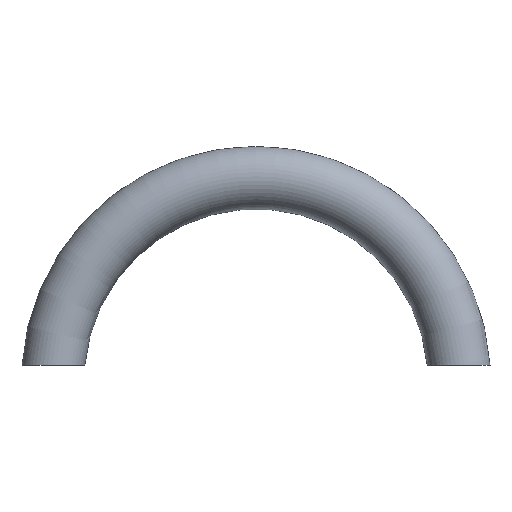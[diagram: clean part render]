
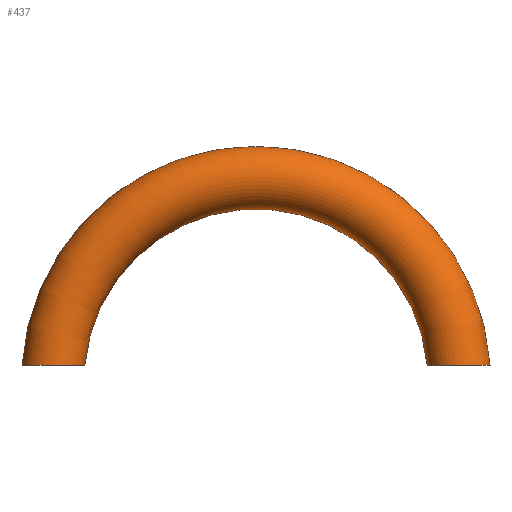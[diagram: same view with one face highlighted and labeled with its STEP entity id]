
A CAD part, top view. The second image highlights one B-rep face of the part: STEP entity #437.
In plain terms, the highlighted toroidal (fillet/blend) face has major radius 32.5 mm and minor radius 5 mm.
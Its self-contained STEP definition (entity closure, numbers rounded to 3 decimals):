
#8 = VERTEX_POINT ( 'NONE', #520 ) ;
#11 = EDGE_CURVE ( 'NONE', #8, #461, #236, .T. ) ;
#16 = DIRECTION ( 'NONE',  ( -1., 0., 0. ) ) ;
#17 = CARTESIAN_POINT ( 'NONE',  ( -37.16, 2.5, 1.613 ) ) ;
#32 = DIRECTION ( 'NONE',  ( 0., 0., -1. ) ) ;
#37 = CARTESIAN_POINT ( 'NONE',  ( 34.912, 2.5, 4.342 ) ) ;
#40 = CARTESIAN_POINT ( 'NONE',  ( 29.892, 2.5, 4.341 ) ) ;
#47 = CARTESIAN_POINT ( 'NONE',  ( -27.895, 2.5, 2.217 ) ) ;
#50 = CARTESIAN_POINT ( 'NONE',  ( -32.072, 2.5, 5. ) ) ;
#53 = CARTESIAN_POINT ( 'NONE',  ( -37.417, 2.5, 0.326 ) ) ;
#55 = CARTESIAN_POINT ( 'NONE',  ( -35.457, 2.5, 3.98 ) ) ;
#59 = AXIS2_PLACEMENT_3D ( 'NONE', #315, #279, #103 ) ;
#70 = AXIS2_PLACEMENT_3D ( 'NONE', #516, #390, #16 ) ;
#75 = CARTESIAN_POINT ( 'NONE',  ( 27.894, 2.5, 2.216 ) ) ;
#77 = CARTESIAN_POINT ( 'NONE',  ( 29.347, 2.5, 3.978 ) ) ;
#82 = CARTESIAN_POINT ( 'NONE',  ( 37.256, 2.5, 1.299 ) ) ;
#85 = CARTESIAN_POINT ( 'NONE',  ( 27.386, 2.5, 0. ) ) ;
#89 = CARTESIAN_POINT ( 'NONE',  ( -36.752, 2.5, 2.51 ) ) ;
#91 = B_SPLINE_CURVE_WITH_KNOTS ( 'NONE', 3,
 ( #481, #98, #129, #227, #351, #47, #133, #311, #478, #519, #270, #308, #306, #179, #427, #472, #221, #272, #50, #92, #264, #517, #435, #433, #267, #55, #515, #100, #397, #89, #262, #17, #216, #181, #53, #355 ),
 .UNSPECIFIED., .F., .F.,
 ( 4, 2, 2, 2, 2, 2, 2, 2, 2, 2, 2, 2, 2, 2, 2, 2, 2, 4 ),
 ( 0.012, 0.013, 0.014, 0.015, 0.016, 0.017, 0.017, 0.018, 0.019, 0.02, 0.021, 0.022, 0.023, 0.024, 0.025, 0.026, 0.027, 0.028 ),
 .UNSPECIFIED. ) ;
#92 = CARTESIAN_POINT ( 'NONE',  ( -32.73, 2.5, 5. ) ) ;
#98 = CARTESIAN_POINT ( 'NONE',  ( -27.386, 2.5, 0.328 ) ) ;
#100 = CARTESIAN_POINT ( 'NONE',  ( -36.179, 2.5, 3.306 ) ) ;
#103 = DIRECTION ( 'NONE',  ( -1., 0., 0. ) ) ;
#115 = CARTESIAN_POINT ( 'NONE',  ( 30.18, 2.5, 4.494 ) ) ;
#117 = CARTESIAN_POINT ( 'NONE',  ( 36.753, 2.5, 2.508 ) ) ;
#124 = CARTESIAN_POINT ( 'NONE',  ( 35.715, 2.5, 3.768 ) ) ;
#129 = CARTESIAN_POINT ( 'NONE',  ( -27.418, 2.5, 0.652 ) ) ;
#133 = CARTESIAN_POINT ( 'NONE',  ( -28.049, 2.5, 2.505 ) ) ;
#150 = ORIENTED_EDGE ( 'NONE', *, *, #11, .T. ) ;
#153 = CARTESIAN_POINT ( 'NONE',  ( 30.787, 2.5, 4.744 ) ) ;
#156 = CARTESIAN_POINT ( 'NONE',  ( 32.732, 2.5, 5. ) ) ;
#164 = CARTESIAN_POINT ( 'NONE',  ( 34.624, 2.5, 4.495 ) ) ;
#166 = ORIENTED_EDGE ( 'NONE', *, *, #419, .F. ) ;
#179 = CARTESIAN_POINT ( 'NONE',  ( -29.893, 2.5, 4.341 ) ) ;
#181 = CARTESIAN_POINT ( 'NONE',  ( -37.385, 2.5, 0.654 ) ) ;
#202 = DIRECTION ( 'NONE',  ( -1., 0., 0. ) ) ;
#205 = CARTESIAN_POINT ( 'NONE',  ( 28.05, 2.5, 2.507 ) ) ;
#206 = EDGE_CURVE ( 'NONE', #8, #344, #91, .T. ) ;
#210 = CARTESIAN_POINT ( 'NONE',  ( 27.644, 2.5, 1.614 ) ) ;
#216 = CARTESIAN_POINT ( 'NONE',  ( -37.255, 2.5, 1.301 ) ) ;
#221 = CARTESIAN_POINT ( 'NONE',  ( -31.105, 2.5, 4.841 ) ) ;
#227 = CARTESIAN_POINT ( 'NONE',  ( -27.546, 2.5, 1.296 ) ) ;
#236 = CIRCLE ( 'NONE', #70, 27.5 ) ;
#247 = CARTESIAN_POINT ( 'NONE',  ( 37.16, 2.5, 1.614 ) ) ;
#254 = CARTESIAN_POINT ( 'NONE',  ( 36.386, 2.5, 3.055 ) ) ;
#262 = CARTESIAN_POINT ( 'NONE',  ( -36.909, 2.5, 2.217 ) ) ;
#264 = CARTESIAN_POINT ( 'NONE',  ( -33.059, 2.5, 4.968 ) ) ;
#267 = CARTESIAN_POINT ( 'NONE',  ( -34.913, 2.5, 4.341 ) ) ;
#270 = CARTESIAN_POINT ( 'NONE',  ( -29.095, 2.5, 3.762 ) ) ;
#272 = CARTESIAN_POINT ( 'NONE',  ( -31.747, 2.5, 4.968 ) ) ;
#279 = DIRECTION ( 'NONE',  ( 0., 0., -1. ) ) ;
#283 = VERTEX_POINT ( 'NONE', #527 ) ;
#286 = CARTESIAN_POINT ( 'NONE',  ( 34.168, 2.5, 4.683 ) ) ;
#288 = CARTESIAN_POINT ( 'NONE',  ( 37.417, 2.5, 0. ) ) ;
#293 = CARTESIAN_POINT ( 'NONE',  ( 0., 0., 0. ) ) ;
#296 = CARTESIAN_POINT ( 'NONE',  ( 28.626, 2.5, 3.306 ) ) ;
#297 = EDGE_LOOP ( 'NONE', ( #482, #324, #150, #166 ) ) ;
#298 = CARTESIAN_POINT ( 'NONE',  ( 27.547, 2.5, 1.298 ) ) ;
#306 = CARTESIAN_POINT ( 'NONE',  ( -29.483, 2.5, 4.068 ) ) ;
#308 = CARTESIAN_POINT ( 'NONE',  ( -29.349, 2.5, 3.97 ) ) ;
#309 = EDGE_CURVE ( 'NONE', #344, #283, #536, .T. ) ;
#311 = CARTESIAN_POINT ( 'NONE',  ( -28.417, 2.5, 3.054 ) ) ;
#315 = CARTESIAN_POINT ( 'NONE',  ( 0., 0., 0. ) ) ;
#324 = ORIENTED_EDGE ( 'NONE', *, *, #206, .F. ) ;
#328 = CARTESIAN_POINT ( 'NONE',  ( 31.746, 2.5, 4.967 ) ) ;
#330 = CARTESIAN_POINT ( 'NONE',  ( 32.071, 2.5, 5. ) ) ;
#336 = CARTESIAN_POINT ( 'NONE',  ( 27.418, 2.5, 0.652 ) ) ;
#339 = CARTESIAN_POINT ( 'NONE',  ( 37.385, 2.5, 0.652 ) ) ;
#344 = VERTEX_POINT ( 'NONE', #362 ) ;
#351 = CARTESIAN_POINT ( 'NONE',  ( -27.644, 2.5, 1.614 ) ) ;
#355 = CARTESIAN_POINT ( 'NONE',  ( -37.417, 2.5, 0. ) ) ;
#362 = CARTESIAN_POINT ( 'NONE',  ( -37.417, 2.5, 0. ) ) ;
#369 = CARTESIAN_POINT ( 'NONE',  ( 27.386, 2.5, 0.327 ) ) ;
#372 = CARTESIAN_POINT ( 'NONE',  ( 34.012, 2.5, 4.739 ) ) ;
#375 = CARTESIAN_POINT ( 'NONE',  ( 36.909, 2.5, 2.216 ) ) ;
#390 = DIRECTION ( 'NONE',  ( 0., 0., -1. ) ) ;
#397 = CARTESIAN_POINT ( 'NONE',  ( -36.386, 2.5, 3.054 ) ) ;
#411 = FACE_OUTER_BOUND ( 'NONE', #297, .T. ) ;
#418 = CARTESIAN_POINT ( 'NONE',  ( 33.697, 2.5, 4.834 ) ) ;
#419 = EDGE_CURVE ( 'NONE', #283, #461, #441, .T. ) ;
#423 = AXIS2_PLACEMENT_3D ( 'NONE', #293, #32, #202 ) ;
#427 = CARTESIAN_POINT ( 'NONE',  ( -30.181, 2.5, 4.494 ) ) ;
#433 = CARTESIAN_POINT ( 'NONE',  ( -34.624, 2.5, 4.495 ) ) ;
#435 = CARTESIAN_POINT ( 'NONE',  ( -34.014, 2.5, 4.746 ) ) ;
#437 = ADVANCED_FACE ( 'NONE', ( #411 ), #448, .T. ) ;
#441 = B_SPLINE_CURVE_WITH_KNOTS ( 'NONE', 3,
 ( #288, #493, #339, #82, #247, #375, #117, #254, #537, #124, #539, #37, #164, #286, #372, #418, #455, #503, #156, #330, #328, #497, #153, #115, #40, #77, #506, #296, #453, #205, #75, #210, #298, #336, #369, #464 ),
 .UNSPECIFIED., .F., .F.,
 ( 4, 2, 2, 2, 2, 2, 2, 2, 2, 2, 2, 2, 2, 2, 2, 2, 2, 4 ),
 ( 0.012, 0.013, 0.014, 0.015, 0.016, 0.017, 0.018, 0.019, 0.019, 0.02, 0.021, 0.022, 0.023, 0.024, 0.025, 0.026, 0.027, 0.028 ),
 .UNSPECIFIED. ) ;
#448 = TOROIDAL_SURFACE ( 'NONE', #423, 32.5, 5. ) ;
#453 = CARTESIAN_POINT ( 'NONE',  ( 28.418, 2.5, 3.054 ) ) ;
#455 = CARTESIAN_POINT ( 'NONE',  ( 33.539, 2.5, 4.873 ) ) ;
#461 = VERTEX_POINT ( 'NONE', #85 ) ;
#464 = CARTESIAN_POINT ( 'NONE',  ( 27.386, 2.5, 0. ) ) ;
#472 = CARTESIAN_POINT ( 'NONE',  ( -30.786, 2.5, 4.744 ) ) ;
#478 = CARTESIAN_POINT ( 'NONE',  ( -28.626, 2.5, 3.307 ) ) ;
#481 = CARTESIAN_POINT ( 'NONE',  ( -27.386, 2.5, 0. ) ) ;
#482 = ORIENTED_EDGE ( 'NONE', *, *, #309, .F. ) ;
#493 = CARTESIAN_POINT ( 'NONE',  ( 37.417, 2.5, 0.327 ) ) ;
#497 = CARTESIAN_POINT ( 'NONE',  ( 31.105, 2.5, 4.84 ) ) ;
#503 = CARTESIAN_POINT ( 'NONE',  ( 33.058, 2.5, 4.968 ) ) ;
#506 = CARTESIAN_POINT ( 'NONE',  ( 29.089, 2.5, 3.767 ) ) ;
#515 = CARTESIAN_POINT ( 'NONE',  ( -35.715, 2.5, 3.769 ) ) ;
#516 = CARTESIAN_POINT ( 'NONE',  ( 0., 0., 0. ) ) ;
#517 = CARTESIAN_POINT ( 'NONE',  ( -33.699, 2.5, 4.841 ) ) ;
#519 = CARTESIAN_POINT ( 'NONE',  ( -28.973, 2.5, 3.652 ) ) ;
#520 = CARTESIAN_POINT ( 'NONE',  ( -27.386, 2.5, 0. ) ) ;
#527 = CARTESIAN_POINT ( 'NONE',  ( 37.417, 2.5, 0. ) ) ;
#536 = CIRCLE ( 'NONE', #59, 37.5 ) ;
#537 = CARTESIAN_POINT ( 'NONE',  ( 36.178, 2.5, 3.307 ) ) ;
#539 = CARTESIAN_POINT ( 'NONE',  ( 35.457, 2.5, 3.979 ) ) ;
